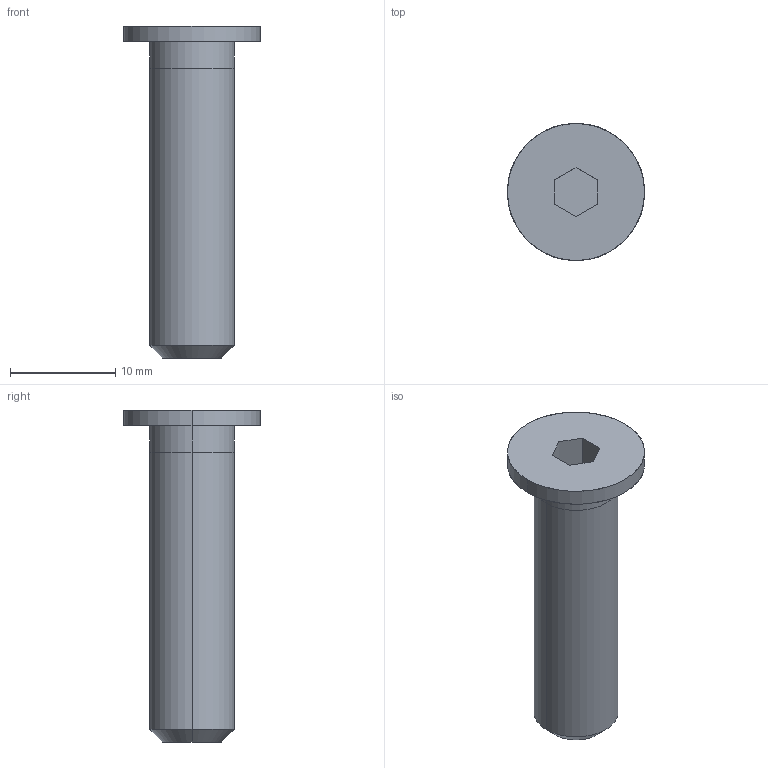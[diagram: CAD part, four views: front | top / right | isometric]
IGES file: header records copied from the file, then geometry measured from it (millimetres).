
Global section: file name: E:\UnigraphicsGraphicData\MISUMI_PRESS-PARTS\IGES\3d_cbss8-30_03509_r00.igs; native system: NX V5.0; preprocessor: UGS NX IGES V5.0; author: MISUMI; date: 20110105.160203; units: millimetre
Bounding box: 13 x 13 x 31.5 mm (x, y, z)
Surface area: 1131.2 mm2 (no closed solid volume)
Topology: 0 solids, 0 shells, 18 faces, 100 edges, 100 vertices
Faces by surface type: bspline 18
